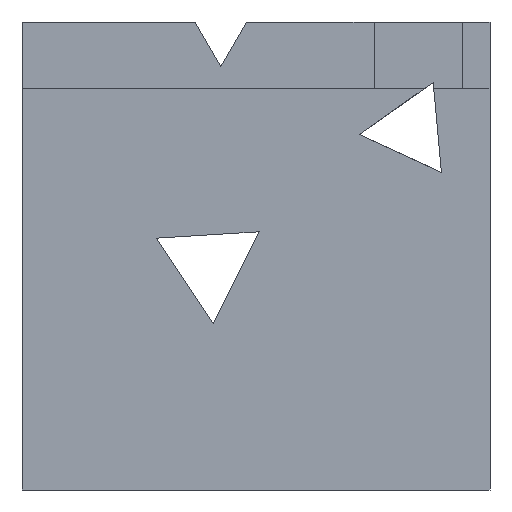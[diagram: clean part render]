
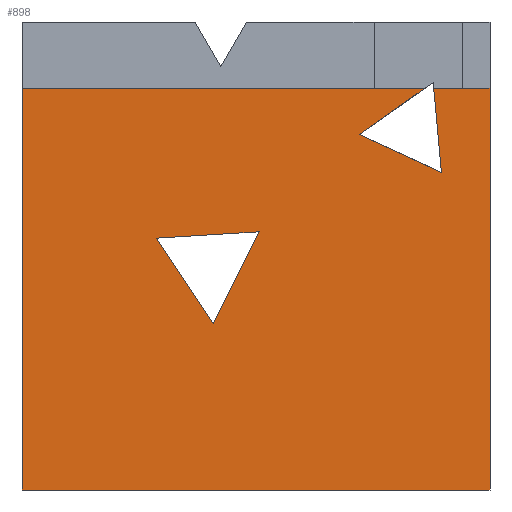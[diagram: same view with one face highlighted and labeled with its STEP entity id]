
A CAD part, left-side view. The second image highlights one B-rep face of the part: STEP entity #898.
In plain terms, the highlighted planar face has unit normal (-1, 0, 0).
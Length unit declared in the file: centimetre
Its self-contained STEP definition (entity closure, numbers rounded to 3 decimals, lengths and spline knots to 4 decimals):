
#3 = EDGE_CURVE ( 'NONE', #1306, #1565, #1343, .T. ) ;
#26 = VERTEX_POINT ( 'NONE', #577 ) ;
#32 = DIRECTION ( 'NONE',  ( 0., 0., -1. ) ) ;
#42 = ORIENTED_EDGE ( 'NONE', *, *, #507, .T. ) ;
#47 = DIRECTION ( 'NONE',  ( 0., -1., 0. ) ) ;
#66 = VECTOR ( 'NONE', #420, 100. ) ;
#69 = CARTESIAN_POINT ( 'NONE',  ( 0., 0., 1000. ) ) ;
#79 = CARTESIAN_POINT ( 'NONE',  ( 0., 591.2836, 354.7909 ) ) ;
#98 = VECTOR ( 'NONE', #731, 100. ) ;
#116 = DIRECTION ( 'NONE',  ( 0., -0.908, -0.42 ) ) ;
#120 = DIRECTION ( 'NONE',  ( 1., 0., 0. ) ) ;
#121 = VECTOR ( 'NONE', #909, 100. ) ;
#132 = ORIENTED_EDGE ( 'NONE', *, *, #3, .T. ) ;
#151 = ORIENTED_EDGE ( 'NONE', *, *, #408, .T. ) ;
#172 = LINE ( 'NONE', #675, #1313 ) ;
#183 = ORIENTED_EDGE ( 'NONE', *, *, #762, .F. ) ;
#187 = VERTEX_POINT ( 'NONE', #1603 ) ;
#188 = CARTESIAN_POINT ( 'NONE',  ( 0., 0., 858.8681 ) ) ;
#192 = EDGE_CURVE ( 'NONE', #187, #1306, #1371, .T. ) ;
#218 = EDGE_CURVE ( 'NONE', #1470, #314, #995, .T. ) ;
#247 = CARTESIAN_POINT ( 'NONE',  ( 0., 1000., 1000. ) ) ;
#264 = AXIS2_PLACEMENT_3D ( 'NONE', #247, #120, #989 ) ;
#303 = EDGE_LOOP ( 'NONE', ( #834, #1240, #183, #1642, #42, #1537, #151, #1285 ) ) ;
#314 = VERTEX_POINT ( 'NONE', #1527 ) ;
#354 = VERTEX_POINT ( 'NONE', #1013 ) ;
#385 = VECTOR ( 'NONE', #1384, 100. ) ;
#408 = EDGE_CURVE ( 'NONE', #26, #674, #1057, .T. ) ;
#420 = DIRECTION ( 'NONE',  ( 0., 0.09, 0.996 ) ) ;
#434 = DIRECTION ( 'NONE',  ( 0., -0.998, 0.062 ) ) ;
#438 = CARTESIAN_POINT ( 'NONE',  ( 0., 1000., 1000. ) ) ;
#468 = EDGE_CURVE ( 'NONE', #602, #354, #172, .T. ) ;
#470 = LINE ( 'NONE', #79, #1639 ) ;
#493 = VECTOR ( 'NONE', #1345, 100. ) ;
#507 = EDGE_CURVE ( 'NONE', #602, #1532, #1279, .T. ) ;
#577 = CARTESIAN_POINT ( 'NONE',  ( 0., 1000., 0. ) ) ;
#602 = VERTEX_POINT ( 'NONE', #685 ) ;
#651 = CARTESIAN_POINT ( 'NONE',  ( 0., 103.8668, 678.3712 ) ) ;
#674 = VERTEX_POINT ( 'NONE', #676 ) ;
#675 = CARTESIAN_POINT ( 'NONE',  ( 0., 121.3594, 871.0873 ) ) ;
#676 = CARTESIAN_POINT ( 'NONE',  ( 0., 0., 0. ) ) ;
#685 = CARTESIAN_POINT ( 'NONE',  ( 0., 138.6899, 858.8681 ) ) ;
#698 = CARTESIAN_POINT ( 'NONE',  ( 0., 493.3333, 551.805 ) ) ;
#731 = DIRECTION ( 'NONE',  ( 0., 0.553, 0.833 ) ) ;
#751 = VECTOR ( 'NONE', #47, 100. ) ;
#760 = CARTESIAN_POINT ( 'NONE',  ( 0., 0., 858.8681 ) ) ;
#762 = EDGE_CURVE ( 'NONE', #354, #1133, #1375, .T. ) ;
#788 = LINE ( 'NONE', #438, #1618 ) ;
#834 = ORIENTED_EDGE ( 'NONE', *, *, #218, .T. ) ;
#842 = LINE ( 'NONE', #69, #493 ) ;
#898 = ADVANCED_FACE ( 'NONE', ( #1505, #1109 ), #1250, .F. ) ;
#909 = DIRECTION ( 'NONE',  ( 0., 1., 0. ) ) ;
#913 = CARTESIAN_POINT ( 'NONE',  ( 0., 1000., 858.8681 ) ) ;
#920 = CARTESIAN_POINT ( 'NONE',  ( 0., 493.3333, 551.805 ) ) ;
#939 = ORIENTED_EDGE ( 'NONE', *, *, #192, .T. ) ;
#968 = CARTESIAN_POINT ( 'NONE',  ( 0., 712.9277, 538.1254 ) ) ;
#989 = DIRECTION ( 'NONE',  ( 0., 0., -1. ) ) ;
#995 = LINE ( 'NONE', #1504, #385 ) ;
#999 = VECTOR ( 'NONE', #434, 100. ) ;
#1013 = CARTESIAN_POINT ( 'NONE',  ( 0., 279.5101, 759.5802 ) ) ;
#1015 = VECTOR ( 'NONE', #116, 100. ) ;
#1057 = LINE ( 'NONE', #1575, #751 ) ;
#1065 = LINE ( 'NONE', #1168, #66 ) ;
#1109 = FACE_OUTER_BOUND ( 'NONE', #303, .T. ) ;
#1132 = CARTESIAN_POINT ( 'NONE',  ( 0., 279.5101, 759.5802 ) ) ;
#1133 = VERTEX_POINT ( 'NONE', #651 ) ;
#1168 = CARTESIAN_POINT ( 'NONE',  ( 0., 103.8668, 678.3712 ) ) ;
#1193 = DIRECTION ( 'NONE',  ( 0., 0.817, -0.576 ) ) ;
#1220 = EDGE_LOOP ( 'NONE', ( #939, #132, #1583 ) ) ;
#1240 = ORIENTED_EDGE ( 'NONE', *, *, #1486, .F. ) ;
#1250 = PLANE ( 'NONE',  #264 ) ;
#1279 = LINE ( 'NONE', #760, #121 ) ;
#1285 = ORIENTED_EDGE ( 'NONE', *, *, #1381, .F. ) ;
#1306 = VERTEX_POINT ( 'NONE', #1317 ) ;
#1313 = VECTOR ( 'NONE', #1193, 100. ) ;
#1317 = CARTESIAN_POINT ( 'NONE',  ( 0., 712.9277, 538.1254 ) ) ;
#1343 = LINE ( 'NONE', #920, #999 ) ;
#1345 = DIRECTION ( 'NONE',  ( 0., 0., -1. ) ) ;
#1371 = LINE ( 'NONE', #968, #98 ) ;
#1375 = LINE ( 'NONE', #1132, #1015 ) ;
#1381 = EDGE_CURVE ( 'NONE', #1470, #674, #842, .T. ) ;
#1384 = DIRECTION ( 'NONE',  ( 0., 1., 0. ) ) ;
#1404 = EDGE_CURVE ( 'NONE', #1565, #187, #470, .T. ) ;
#1470 = VERTEX_POINT ( 'NONE', #188 ) ;
#1486 = EDGE_CURVE ( 'NONE', #1133, #314, #1065, .T. ) ;
#1490 = DIRECTION ( 'NONE',  ( 0., 0.445, -0.895 ) ) ;
#1501 = EDGE_CURVE ( 'NONE', #1532, #26, #788, .T. ) ;
#1504 = CARTESIAN_POINT ( 'NONE',  ( 0., 0., 858.8681 ) ) ;
#1505 = FACE_BOUND ( 'NONE', #1220, .T. ) ;
#1527 = CARTESIAN_POINT ( 'NONE',  ( 0., 120.2503, 858.8681 ) ) ;
#1532 = VERTEX_POINT ( 'NONE', #913 ) ;
#1537 = ORIENTED_EDGE ( 'NONE', *, *, #1501, .T. ) ;
#1565 = VERTEX_POINT ( 'NONE', #698 ) ;
#1575 = CARTESIAN_POINT ( 'NONE',  ( 0., 1000., 0. ) ) ;
#1583 = ORIENTED_EDGE ( 'NONE', *, *, #1404, .T. ) ;
#1603 = CARTESIAN_POINT ( 'NONE',  ( 0., 591.2836, 354.7909 ) ) ;
#1618 = VECTOR ( 'NONE', #32, 100. ) ;
#1639 = VECTOR ( 'NONE', #1490, 100. ) ;
#1642 = ORIENTED_EDGE ( 'NONE', *, *, #468, .F. ) ;
